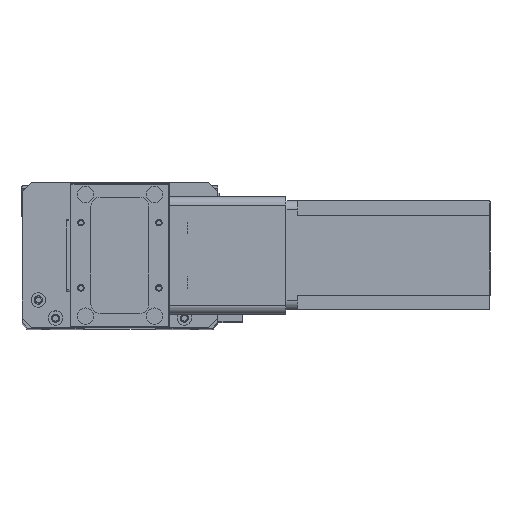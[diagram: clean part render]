
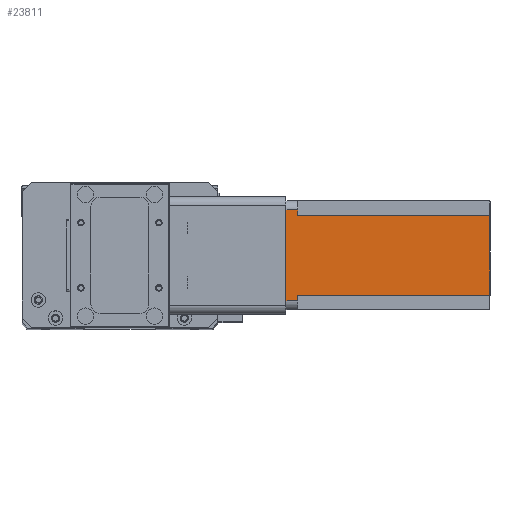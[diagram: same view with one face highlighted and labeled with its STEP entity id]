
A CAD part, top view. The second image highlights one B-rep face of the part: STEP entity #23811.
In plain terms, the highlighted planar face has unit normal (0, 0, 1) as drawn and (0, 1, 0) by its records, which use the part's own axes.
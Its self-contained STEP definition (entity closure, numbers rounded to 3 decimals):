
#805 = DIRECTION ( 'NONE',  ( 0., 0., 1. ) ) ;
#2004 = VECTOR ( 'NONE', #11211, 1000. ) ;
#2274 = CARTESIAN_POINT ( 'NONE',  ( 52., 60., -6.5 ) ) ;
#2352 = LINE ( 'NONE', #25129, #12291 ) ;
#2746 = ORIENTED_EDGE ( 'NONE', *, *, #18478, .T. ) ;
#2906 = CARTESIAN_POINT ( 'NONE',  ( 55., 60., -6.5 ) ) ;
#3105 = LINE ( 'NONE', #17481, #4335 ) ;
#3677 = VERTEX_POINT ( 'NONE', #2906 ) ;
#3898 = VERTEX_POINT ( 'NONE', #21518 ) ;
#4003 = EDGE_CURVE ( 'NONE', #23881, #3898, #5263, .T. ) ;
#4096 = VERTEX_POINT ( 'NONE', #4435 ) ;
#4130 = EDGE_LOOP ( 'NONE', ( #4848, #2746, #14767, #8740, #10799, #13979, #9667, #21446 ) ) ;
#4335 = VECTOR ( 'NONE', #5645, 1000. ) ;
#4435 = CARTESIAN_POINT ( 'NONE',  ( 5., 60., -6.5 ) ) ;
#4848 = ORIENTED_EDGE ( 'NONE', *, *, #9891, .F. ) ;
#5263 = LINE ( 'NONE', #13994, #20424 ) ;
#5310 = VERTEX_POINT ( 'NONE', #13678 ) ;
#5333 = DIRECTION ( 'NONE',  ( -1., 0., 0. ) ) ;
#5645 = DIRECTION ( 'NONE',  ( -1., 0., 0. ) ) ;
#5718 = DIRECTION ( 'NONE',  ( 0., 0., -1. ) ) ;
#6189 = AXIS2_PLACEMENT_3D ( 'NONE', #22560, #12685, #805 ) ;
#7345 = LINE ( 'NONE', #9223, #2004 ) ;
#7616 = LINE ( 'NONE', #7651, #17465 ) ;
#7651 = CARTESIAN_POINT ( 'NONE',  ( 52., 60., -112.5 ) ) ;
#8048 = LINE ( 'NONE', #23236, #17298 ) ;
#8740 = ORIENTED_EDGE ( 'NONE', *, *, #14411, .F. ) ;
#9223 = CARTESIAN_POINT ( 'NONE',  ( 5., 60., -112.5 ) ) ;
#9423 = DIRECTION ( 'NONE',  ( 1., 0., 0. ) ) ;
#9667 = ORIENTED_EDGE ( 'NONE', *, *, #12189, .T. ) ;
#9891 = EDGE_CURVE ( 'NONE', #20545, #21366, #3105, .T. ) ;
#10118 = DIRECTION ( 'NONE',  ( 0., 0., -1. ) ) ;
#10482 = VECTOR ( 'NONE', #5718, 1000. ) ;
#10727 = PLANE ( 'NONE',  #6189 ) ;
#10799 = ORIENTED_EDGE ( 'NONE', *, *, #25186, .T. ) ;
#11211 = DIRECTION ( 'NONE',  ( 0., 0., 1. ) ) ;
#12189 = EDGE_CURVE ( 'NONE', #23881, #4096, #2352, .T. ) ;
#12291 = VECTOR ( 'NONE', #5333, 1000. ) ;
#12685 = DIRECTION ( 'NONE',  ( 0., 1., 0. ) ) ;
#12811 = CARTESIAN_POINT ( 'NONE',  ( 5., 60., 0. ) ) ;
#13414 = VERTEX_POINT ( 'NONE', #2274 ) ;
#13578 = DIRECTION ( 'NONE',  ( 0., 0., 1. ) ) ;
#13678 = CARTESIAN_POINT ( 'NONE',  ( 52., 60., -112.5 ) ) ;
#13695 = EDGE_CURVE ( 'NONE', #4096, #21366, #7345, .T. ) ;
#13979 = ORIENTED_EDGE ( 'NONE', *, *, #4003, .F. ) ;
#13994 = CARTESIAN_POINT ( 'NONE',  ( 8., 60., -112.5 ) ) ;
#14411 = EDGE_CURVE ( 'NONE', #5310, #13414, #7616, .T. ) ;
#14767 = ORIENTED_EDGE ( 'NONE', *, *, #25302, .F. ) ;
#15768 = LINE ( 'NONE', #18976, #25622 ) ;
#17298 = VECTOR ( 'NONE', #9423, 1000. ) ;
#17465 = VECTOR ( 'NONE', #13578, 1000. ) ;
#17481 = CARTESIAN_POINT ( 'NONE',  ( 0., 60., 0. ) ) ;
#18478 = EDGE_CURVE ( 'NONE', #20545, #3677, #20969, .T. ) ;
#18976 = CARTESIAN_POINT ( 'NONE',  ( 0., 60., -112.5 ) ) ;
#19553 = CARTESIAN_POINT ( 'NONE',  ( 55., 60., -112.5 ) ) ;
#20275 = CARTESIAN_POINT ( 'NONE',  ( 55., 60., 0. ) ) ;
#20424 = VECTOR ( 'NONE', #10118, 1000. ) ;
#20545 = VERTEX_POINT ( 'NONE', #20275 ) ;
#20807 = CARTESIAN_POINT ( 'NONE',  ( 8., 60., -6.5 ) ) ;
#20969 = LINE ( 'NONE', #19553, #10482 ) ;
#20980 = DIRECTION ( 'NONE',  ( -1., 0., 0. ) ) ;
#21366 = VERTEX_POINT ( 'NONE', #12811 ) ;
#21446 = ORIENTED_EDGE ( 'NONE', *, *, #13695, .T. ) ;
#21518 = CARTESIAN_POINT ( 'NONE',  ( 8., 60., -112.5 ) ) ;
#22225 = FACE_OUTER_BOUND ( 'NONE', #4130, .T. ) ;
#22560 = CARTESIAN_POINT ( 'NONE',  ( 0., 60., -112.5 ) ) ;
#23236 = CARTESIAN_POINT ( 'NONE',  ( 52., 60., -6.5 ) ) ;
#23811 = ADVANCED_FACE ( 'NONE', ( #22225 ), #10727, .T. ) ;
#23881 = VERTEX_POINT ( 'NONE', #20807 ) ;
#25129 = CARTESIAN_POINT ( 'NONE',  ( 8., 60., -6.5 ) ) ;
#25186 = EDGE_CURVE ( 'NONE', #5310, #3898, #15768, .T. ) ;
#25302 = EDGE_CURVE ( 'NONE', #13414, #3677, #8048, .T. ) ;
#25622 = VECTOR ( 'NONE', #20980, 1000. ) ;
